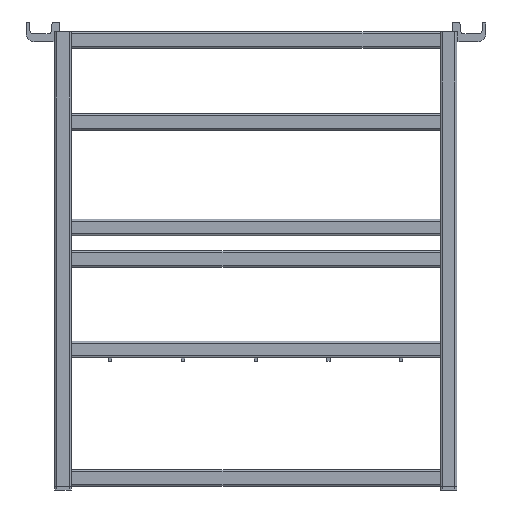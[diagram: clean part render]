
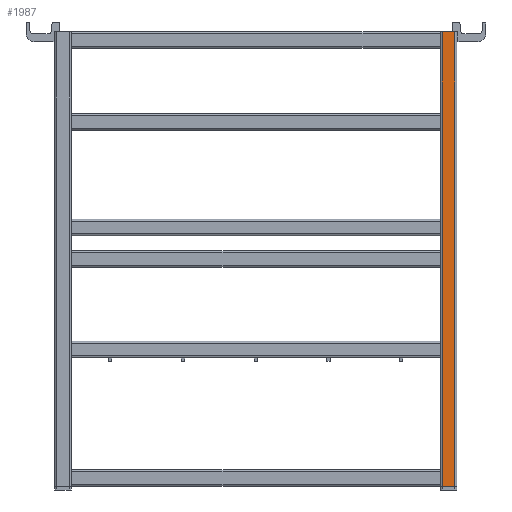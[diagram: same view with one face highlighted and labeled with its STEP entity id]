
A CAD part, left-side view. The second image highlights one B-rep face of the part: STEP entity #1987.
In plain terms, the highlighted planar face has unit normal (-1, 0, 0).
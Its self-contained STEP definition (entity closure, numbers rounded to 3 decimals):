
#1987=ADVANCED_FACE('',(#3924),#3108,.T.);
#3108=PLANE('',#25858);
#3924=FACE_OUTER_BOUND('',#5184,.T.);
#5184=EDGE_LOOP('',(#8434,#8435,#8436,#8437));
#8434=ORIENTED_EDGE('',*,*,#17111,.T.);
#8435=ORIENTED_EDGE('',*,*,#17112,.T.);
#8436=ORIENTED_EDGE('',*,*,#17113,.F.);
#8437=ORIENTED_EDGE('',*,*,#17114,.T.);
#14300=VERTEX_POINT('',#38096);
#14301=VERTEX_POINT('',#38097);
#14302=VERTEX_POINT('',#38099);
#14303=VERTEX_POINT('',#38101);
#17111=EDGE_CURVE('',#14300,#14301,#20293,.T.);
#17112=EDGE_CURVE('',#14301,#14302,#20294,.T.);
#17113=EDGE_CURVE('',#14303,#14302,#20295,.T.);
#17114=EDGE_CURVE('',#14303,#14300,#20296,.T.);
#20293=LINE('',#38095,#22572);
#20294=LINE('',#38098,#22573);
#20295=LINE('',#38100,#22574);
#20296=LINE('',#38102,#22575);
#22572=VECTOR('',#29490,1.);
#22573=VECTOR('',#29491,1.);
#22574=VECTOR('',#29492,1.);
#22575=VECTOR('',#29493,1.);
#25858=AXIS2_PLACEMENT_3D('',#38103,#29494,#29495);
#29490=DIRECTION('',(0.,1.,0.));
#29491=DIRECTION('',(0.,0.,-1.));
#29492=DIRECTION('',(0.,1.,0.));
#29493=DIRECTION('',(0.,0.,1.));
#29494=DIRECTION('',(-1.,0.,0.));
#29495=DIRECTION('',(0.,-1.,0.));
#38095=CARTESIAN_POINT('',(-25.,-1216.465,0.035));
#38096=CARTESIAN_POINT('',(-25.,-1210.465,0.035));
#38097=CARTESIAN_POINT('',(-25.,-1172.465,0.035));
#38098=CARTESIAN_POINT('',(-25.,-1172.465,0.035));
#38099=CARTESIAN_POINT('',(-25.,-1172.465,-1379.965));
#38100=CARTESIAN_POINT('',(-25.,-1216.465,-1379.965));
#38101=CARTESIAN_POINT('',(-25.,-1210.465,-1379.965));
#38102=CARTESIAN_POINT('',(-25.,-1210.465,0.035));
#38103=CARTESIAN_POINT('',(-25.,-1216.465,0.035));
